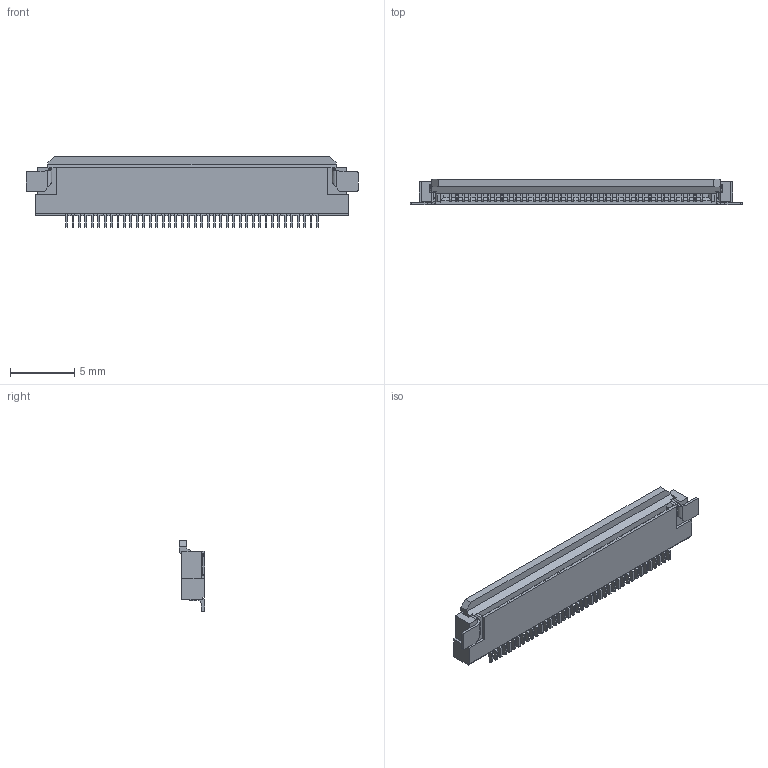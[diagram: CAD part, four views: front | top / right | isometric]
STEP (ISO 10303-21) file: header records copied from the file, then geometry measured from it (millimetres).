
FILE_DESCRIPTION((''),'2;1');
FILE_NAME('E-51502-060XX-001_ASM','2011-10-25T',('12114032'),(''),'PRO/ENGINEER BY PARAMETRIC TECHNOLOGY CORPORATION, 2010370','PRO/ENGINEER BY PARAMETRIC TECHNOLOGY CORPORATION, 2010370','');
FILE_SCHEMA(('CONFIG_CONTROL_DESIGN'));
Products named in the file (1): E-51502-060XX-001_ASM
Bounding box: 25.8 x 2 x 5.51 mm (x, y, z)
Volume: 118.8 mm3; surface area: 942.7 mm2
Topology: 2 solids, 2 shells, 2669 faces, 9898 edges, 6985 vertices
Faces by surface type: plane 1733, cylinder 926, bspline 6, torus 4
Entity records: 108390 total; most frequent: CARTESIAN_POINT 19968, ORIENTED_EDGE 19796, DIRECTION 18568, EDGE_CURVE 9898, VERTEX_POINT 6985, VECTOR 6494, LINE 6494, AXIS2_PLACEMENT_3D 6037
